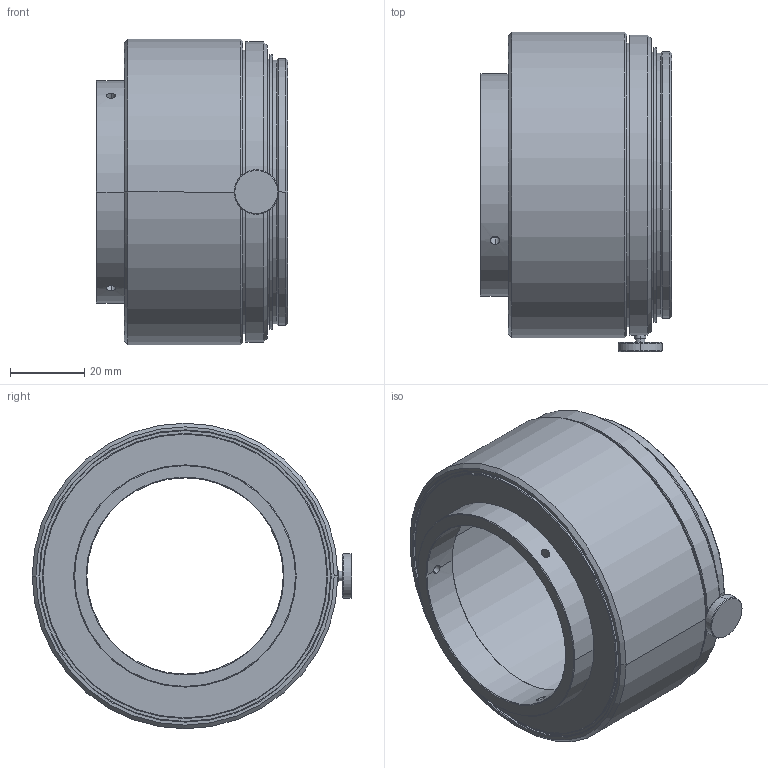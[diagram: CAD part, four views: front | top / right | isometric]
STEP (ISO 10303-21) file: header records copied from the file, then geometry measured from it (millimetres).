
FILE_DESCRIPTION (( 'STEP AP203' ), '1' );
FILE_NAME ('VS-FR20-53V_M72.STEP', '2017-01-05T00:34:42', ( '' ), ( '' ), 'SwSTEP 2.0', 'SolidWorks 2017', '' );
FILE_SCHEMA (( 'CONFIG_CONTROL_DESIGN' ));
Length unit declared in the file: millimetre
Products named in the file (1): VS-FR20-53V_M72
Bounding box: 51.7 x 86.25 x 82.5 mm (x, y, z)
Volume: 77109.1 mm3; surface area: 31571.7 mm2
Topology: 1 solids, 1 shells, 93 faces, 201 edges, 120 vertices
Faces by surface type: cone 40, cylinder 38, plane 15
Entity records: 2856 total; most frequent: CARTESIAN_POINT 699, DIRECTION 469, ORIENTED_EDGE 402, EDGE_CURVE 201, AXIS2_PLACEMENT_3D 194, VERTEX_POINT 120, EDGE_LOOP 111, CIRCLE 100
